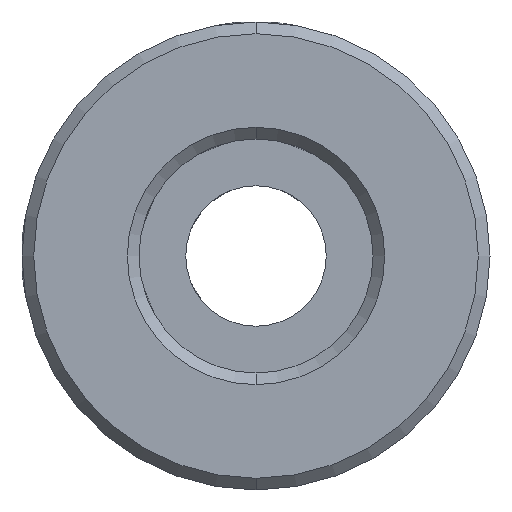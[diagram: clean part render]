
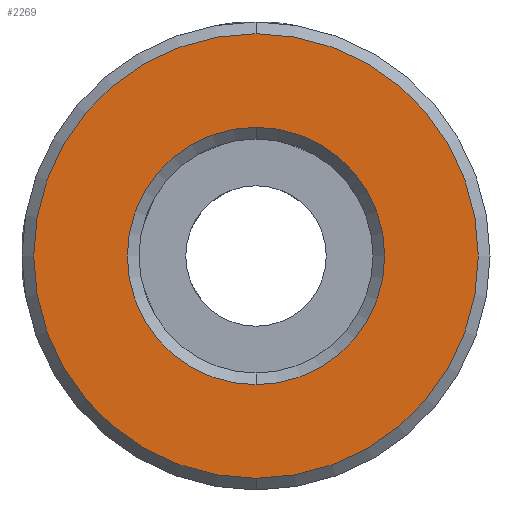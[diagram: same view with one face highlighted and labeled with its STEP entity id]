
A CAD part, front view. The second image highlights one B-rep face of the part: STEP entity #2269.
In plain terms, the highlighted planar face has unit normal (0, -1, 0).
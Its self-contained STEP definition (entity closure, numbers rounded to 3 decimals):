
#200 = DIRECTION ( 'NONE',  ( 0., 0., 1. ) ) ;
#275 = EDGE_LOOP ( 'NONE', ( #1924, #3209 ) ) ;
#329 = DIRECTION ( 'NONE',  ( 0., -1., 0. ) ) ;
#390 = DIRECTION ( 'NONE',  ( 0., 0., 1. ) ) ;
#642 = FACE_OUTER_BOUND ( 'NONE', #275, .T. ) ;
#658 = CARTESIAN_POINT ( 'NONE',  ( -10.188, -0.277, 0.046 ) ) ;
#660 = PLANE ( 'NONE',  #3519 ) ;
#679 = DIRECTION ( 'NONE',  ( 0., 1., 0. ) ) ;
#878 = EDGE_LOOP ( 'NONE', ( #1047, #1728 ) ) ;
#909 = AXIS2_PLACEMENT_3D ( 'NONE', #658, #679, #1803 ) ;
#931 = DIRECTION ( 'NONE',  ( 0., 0., 1. ) ) ;
#938 = DIRECTION ( 'NONE',  ( 0., 0., 1. ) ) ;
#966 = CIRCLE ( 'NONE', #2220, 9.5 ) ;
#1047 = ORIENTED_EDGE ( 'NONE', *, *, #2189, .T. ) ;
#1056 = CARTESIAN_POINT ( 'NONE',  ( -10.188, -0.277, 5.546 ) ) ;
#1148 = CARTESIAN_POINT ( 'NONE',  ( -10.188, -0.277, 0.046 ) ) ;
#1300 = CARTESIAN_POINT ( 'NONE',  ( -10.188, -0.277, 9.546 ) ) ;
#1487 = DIRECTION ( 'NONE',  ( 0., 1., 0. ) ) ;
#1499 = CARTESIAN_POINT ( 'NONE',  ( -10.188, -0.277, -9.454 ) ) ;
#1604 = CIRCLE ( 'NONE', #2974, 9.5 ) ;
#1727 = CARTESIAN_POINT ( 'NONE',  ( -10.188, -0.277, -5.454 ) ) ;
#1728 = ORIENTED_EDGE ( 'NONE', *, *, #2554, .T. ) ;
#1784 = DIRECTION ( 'NONE',  ( 0., 1., 0. ) ) ;
#1803 = DIRECTION ( 'NONE',  ( 0., 0., 1. ) ) ;
#1924 = ORIENTED_EDGE ( 'NONE', *, *, #2885, .T. ) ;
#2010 = VERTEX_POINT ( 'NONE', #1056 ) ;
#2092 = CIRCLE ( 'NONE', #909, 5.5 ) ;
#2189 = EDGE_CURVE ( 'NONE', #2832, #2010, #3103, .T. ) ;
#2220 = AXIS2_PLACEMENT_3D ( 'NONE', #3279, #2710, #200 ) ;
#2269 = ADVANCED_FACE ( 'NONE', ( #642, #3203 ), #660, .F. ) ;
#2365 = EDGE_CURVE ( 'NONE', #2926, #2611, #966, .T. ) ;
#2443 = AXIS2_PLACEMENT_3D ( 'NONE', #2919, #1487, #938 ) ;
#2554 = EDGE_CURVE ( 'NONE', #2010, #2832, #2092, .T. ) ;
#2611 = VERTEX_POINT ( 'NONE', #1300 ) ;
#2640 = CARTESIAN_POINT ( 'NONE',  ( -10.188, -0.277, 0.046 ) ) ;
#2710 = DIRECTION ( 'NONE',  ( 0., -1., 0. ) ) ;
#2832 = VERTEX_POINT ( 'NONE', #1727 ) ;
#2885 = EDGE_CURVE ( 'NONE', #2611, #2926, #1604, .T. ) ;
#2919 = CARTESIAN_POINT ( 'NONE',  ( -10.188, -0.277, 0.046 ) ) ;
#2926 = VERTEX_POINT ( 'NONE', #1499 ) ;
#2974 = AXIS2_PLACEMENT_3D ( 'NONE', #1148, #329, #931 ) ;
#3103 = CIRCLE ( 'NONE', #2443, 5.5 ) ;
#3203 = FACE_BOUND ( 'NONE', #878, .T. ) ;
#3209 = ORIENTED_EDGE ( 'NONE', *, *, #2365, .T. ) ;
#3279 = CARTESIAN_POINT ( 'NONE',  ( -10.188, -0.277, 0.046 ) ) ;
#3519 = AXIS2_PLACEMENT_3D ( 'NONE', #2640, #1784, #390 ) ;
